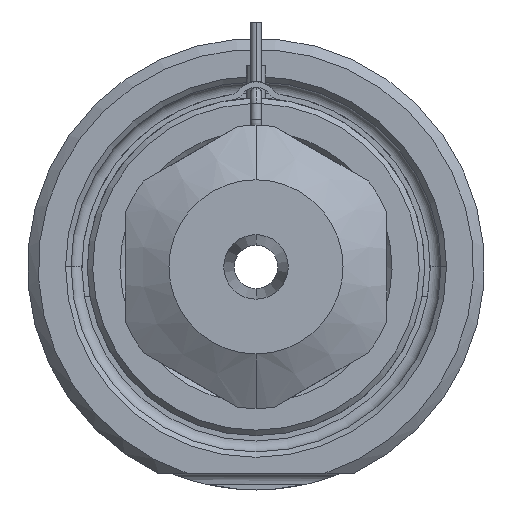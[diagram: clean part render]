
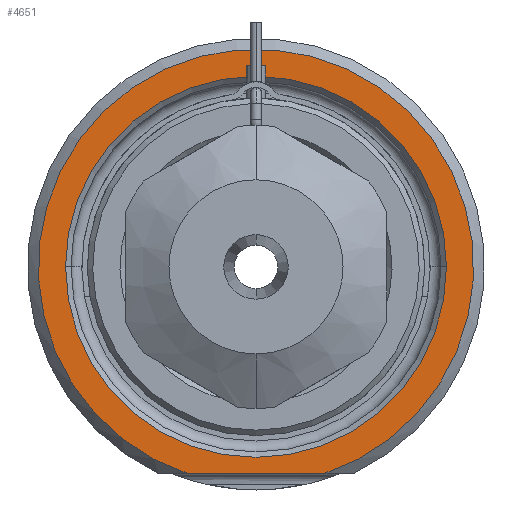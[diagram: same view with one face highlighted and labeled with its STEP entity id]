
A CAD part, front view. The second image highlights one B-rep face of the part: STEP entity #4651.
In plain terms, the highlighted planar face has unit normal (0, -1, 0).
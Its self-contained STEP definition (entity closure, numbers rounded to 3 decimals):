
#1618=CARTESIAN_POINT('',(0.,0.,0.));
#1619=DIRECTION('',(0.,-1.,0.));
#1620=DIRECTION('',(0.312,0.,-0.95));
#1621=AXIS2_PLACEMENT_3D('',#1618,#1619,#1620);
#1642=DIRECTION('',(1.,0.,0.));
#1643=VECTOR('',#1642,12.49);
#1644=CARTESIAN_POINT('',(-6.245,0.,-19.));
#1645=LINE('',#1644,#1643);
#1646=CARTESIAN_POINT('',(0.,0.,0.));
#1647=DIRECTION('',(0.,1.,0.));
#1648=DIRECTION('',(-1.,0.,0.));
#1649=AXIS2_PLACEMENT_3D('',#1646,#1647,#1648);
#1651=CARTESIAN_POINT('',(0.,0.,0.));
#1652=DIRECTION('',(0.,1.,0.));
#1653=DIRECTION('',(1.,0.,0.));
#1654=AXIS2_PLACEMENT_3D('',#1651,#1652,#1653);
#2535=CARTESIAN_POINT('',(-17.5,0.,0.));
#2536=CARTESIAN_POINT('',(17.5,0.,0.));
#2537=VERTEX_POINT('',#2535);
#2538=VERTEX_POINT('',#2536);
#2579=CARTESIAN_POINT('',(-6.245,0.,-19.));
#2580=CARTESIAN_POINT('',(6.245,0.,-19.));
#2581=VERTEX_POINT('',#2579);
#2582=VERTEX_POINT('',#2580);
#4636=CARTESIAN_POINT('',(0.,0.,0.));
#4637=DIRECTION('',(0.,-1.,0.));
#4638=DIRECTION('',(1.,0.,0.));
#4639=AXIS2_PLACEMENT_3D('',#4636,#4637,#4638);
#4640=PLANE('',#4639);
#4641=ORIENTED_EDGE('',*,*,#4568,.F.);
#4642=ORIENTED_EDGE('',*,*,#4628,.F.);
#4643=EDGE_LOOP('',(#4641,#4642));
#4644=FACE_OUTER_BOUND('',#4643,.F.);
#4646=ORIENTED_EDGE('',*,*,#4645,.F.);
#4648=ORIENTED_EDGE('',*,*,#4647,.F.);
#4649=EDGE_LOOP('',(#4646,#4648));
#4650=FACE_BOUND('',#4649,.F.);
#4651=ADVANCED_FACE('',(#4644,#4650),#4640,.T.);
#1622=CIRCLE('',#1621,20.);
#1650=CIRCLE('',#1649,17.5);
#1655=CIRCLE('',#1654,17.5);
#4568=EDGE_CURVE('',#2581,#2582,#1645,.T.);
#4628=EDGE_CURVE('',#2582,#2581,#1622,.T.);
#4645=EDGE_CURVE('',#2537,#2538,#1650,.T.);
#4647=EDGE_CURVE('',#2538,#2537,#1655,.T.);
